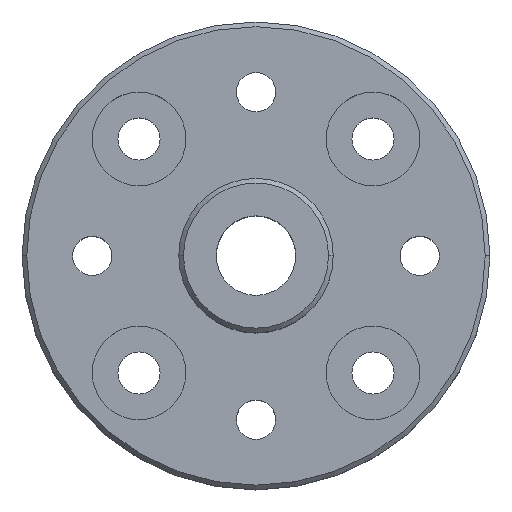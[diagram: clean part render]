
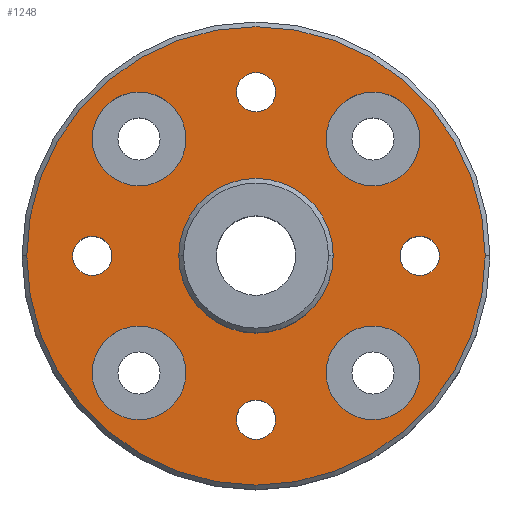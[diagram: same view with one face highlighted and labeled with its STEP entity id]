
A CAD part, top view. The second image highlights one B-rep face of the part: STEP entity #1248.
In plain terms, the highlighted planar face has unit normal (0, 0, 1).
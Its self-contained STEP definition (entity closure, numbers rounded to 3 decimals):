
#428=AXIS2_PLACEMENT_3D('Circle Axis2P3D',#426,#427,$) ;
#447=AXIS2_PLACEMENT_3D('Circle Axis2P3D',#445,#446,$) ;
#471=AXIS2_PLACEMENT_3D('Circle Axis2P3D',#469,#470,$) ;
#490=AXIS2_PLACEMENT_3D('Circle Axis2P3D',#488,#489,$) ;
#514=AXIS2_PLACEMENT_3D('Circle Axis2P3D',#512,#513,$) ;
#533=AXIS2_PLACEMENT_3D('Circle Axis2P3D',#531,#532,$) ;
#557=AXIS2_PLACEMENT_3D('Circle Axis2P3D',#555,#556,$) ;
#576=AXIS2_PLACEMENT_3D('Circle Axis2P3D',#574,#575,$) ;
#609=AXIS2_PLACEMENT_3D('Circle Axis2P3D',#607,#608,$) ;
#633=AXIS2_PLACEMENT_3D('Circle Axis2P3D',#631,#632,$) ;
#666=AXIS2_PLACEMENT_3D('Circle Axis2P3D',#664,#665,$) ;
#690=AXIS2_PLACEMENT_3D('Circle Axis2P3D',#688,#689,$) ;
#723=AXIS2_PLACEMENT_3D('Circle Axis2P3D',#721,#722,$) ;
#747=AXIS2_PLACEMENT_3D('Circle Axis2P3D',#745,#746,$) ;
#780=AXIS2_PLACEMENT_3D('Circle Axis2P3D',#778,#779,$) ;
#804=AXIS2_PLACEMENT_3D('Circle Axis2P3D',#802,#803,$) ;
#844=AXIS2_PLACEMENT_3D('Circle Axis2P3D',#842,#843,$) ;
#866=AXIS2_PLACEMENT_3D('Circle Axis2P3D',#864,#865,$) ;
#1174=AXIS2_PLACEMENT_3D('Circle Axis2P3D',#1172,#1173,$) ;
#1193=AXIS2_PLACEMENT_3D('Circle Axis2P3D',#1191,#1192,$) ;
#1206=AXIS2_PLACEMENT_3D('Plane Axis2P3D',#1203,#1204,#1205) ;
#423=CARTESIAN_POINT('Vertex',(-17.5,-12.5,10.)) ;
#426=CARTESIAN_POINT('Axis2P3D Location',(-12.5,-12.5,10.)) ;
#430=CARTESIAN_POINT('Vertex',(-7.5,-12.5,10.)) ;
#445=CARTESIAN_POINT('Axis2P3D Location',(-12.5,-12.5,10.)) ;
#466=CARTESIAN_POINT('Vertex',(7.5,-12.5,10.)) ;
#469=CARTESIAN_POINT('Axis2P3D Location',(12.5,-12.5,10.)) ;
#473=CARTESIAN_POINT('Vertex',(17.5,-12.5,10.)) ;
#488=CARTESIAN_POINT('Axis2P3D Location',(12.5,-12.5,10.)) ;
#509=CARTESIAN_POINT('Vertex',(7.5,12.5,10.)) ;
#512=CARTESIAN_POINT('Axis2P3D Location',(12.5,12.5,10.)) ;
#516=CARTESIAN_POINT('Vertex',(17.5,12.5,10.)) ;
#531=CARTESIAN_POINT('Axis2P3D Location',(12.5,12.5,10.)) ;
#552=CARTESIAN_POINT('Vertex',(-17.5,12.5,10.)) ;
#555=CARTESIAN_POINT('Axis2P3D Location',(-12.5,12.5,10.)) ;
#559=CARTESIAN_POINT('Vertex',(-7.5,12.5,10.)) ;
#574=CARTESIAN_POINT('Axis2P3D Location',(-12.5,12.5,10.)) ;
#604=CARTESIAN_POINT('Vertex',(-19.6,0.,10.)) ;
#607=CARTESIAN_POINT('Axis2P3D Location',(-17.5,0.,10.)) ;
#611=CARTESIAN_POINT('Vertex',(-15.4,0.,10.)) ;
#631=CARTESIAN_POINT('Axis2P3D Location',(-17.5,0.,10.)) ;
#661=CARTESIAN_POINT('Vertex',(15.4,0.,10.)) ;
#664=CARTESIAN_POINT('Axis2P3D Location',(17.5,0.,10.)) ;
#668=CARTESIAN_POINT('Vertex',(19.6,0.,10.)) ;
#688=CARTESIAN_POINT('Axis2P3D Location',(17.5,0.,10.)) ;
#718=CARTESIAN_POINT('Vertex',(-2.1,-17.5,10.)) ;
#721=CARTESIAN_POINT('Axis2P3D Location',(0.,-17.5,10.)) ;
#725=CARTESIAN_POINT('Vertex',(2.1,-17.5,10.)) ;
#745=CARTESIAN_POINT('Axis2P3D Location',(0.,-17.5,10.)) ;
#775=CARTESIAN_POINT('Vertex',(-2.1,17.5,10.)) ;
#778=CARTESIAN_POINT('Axis2P3D Location',(0.,17.5,10.)) ;
#782=CARTESIAN_POINT('Vertex',(2.1,17.5,10.)) ;
#802=CARTESIAN_POINT('Axis2P3D Location',(0.,17.5,10.)) ;
#823=CARTESIAN_POINT('Vertex',(-24.5,0.,10.)) ;
#839=CARTESIAN_POINT('Vertex',(24.5,0.,10.)) ;
#842=CARTESIAN_POINT('Axis2P3D Location',(0.,0.,10.)) ;
#864=CARTESIAN_POINT('Axis2P3D Location',(0.,0.,10.)) ;
#1169=CARTESIAN_POINT('Vertex',(-8.,0.,10.)) ;
#1172=CARTESIAN_POINT('Axis2P3D Location',(0.,0.,10.)) ;
#1176=CARTESIAN_POINT('Vertex',(8.,0.,10.)) ;
#1191=CARTESIAN_POINT('Axis2P3D Location',(0.,0.,10.)) ;
#1203=CARTESIAN_POINT('Axis2P3D Location',(0.,0.,10.)) ;
#427=DIRECTION('Axis2P3D Direction',(0.,0.,1.)) ;
#446=DIRECTION('Axis2P3D Direction',(0.,0.,1.)) ;
#470=DIRECTION('Axis2P3D Direction',(0.,0.,1.)) ;
#489=DIRECTION('Axis2P3D Direction',(0.,0.,1.)) ;
#513=DIRECTION('Axis2P3D Direction',(0.,0.,1.)) ;
#532=DIRECTION('Axis2P3D Direction',(0.,0.,1.)) ;
#556=DIRECTION('Axis2P3D Direction',(0.,0.,1.)) ;
#575=DIRECTION('Axis2P3D Direction',(0.,0.,1.)) ;
#608=DIRECTION('Axis2P3D Direction',(0.,0.,1.)) ;
#632=DIRECTION('Axis2P3D Direction',(0.,0.,1.)) ;
#665=DIRECTION('Axis2P3D Direction',(0.,0.,1.)) ;
#689=DIRECTION('Axis2P3D Direction',(0.,0.,1.)) ;
#722=DIRECTION('Axis2P3D Direction',(0.,0.,1.)) ;
#746=DIRECTION('Axis2P3D Direction',(0.,0.,1.)) ;
#779=DIRECTION('Axis2P3D Direction',(0.,0.,1.)) ;
#803=DIRECTION('Axis2P3D Direction',(0.,0.,1.)) ;
#843=DIRECTION('Axis2P3D Direction',(0.,0.,1.)) ;
#865=DIRECTION('Axis2P3D Direction',(0.,0.,1.)) ;
#1173=DIRECTION('Axis2P3D Direction',(0.,0.,1.)) ;
#1192=DIRECTION('Axis2P3D Direction',(0.,0.,1.)) ;
#1204=DIRECTION('Axis2P3D Direction',(0.,0.,1.)) ;
#1205=DIRECTION('Axis2P3D XDirection',(1.,0.,0.)) ;
#1209=ORIENTED_EDGE('',*,*,#846,.T.) ;
#1210=ORIENTED_EDGE('',*,*,#868,.T.) ;
#1213=ORIENTED_EDGE('',*,*,#432,.F.) ;
#1214=ORIENTED_EDGE('',*,*,#449,.F.) ;
#1217=ORIENTED_EDGE('',*,*,#475,.F.) ;
#1218=ORIENTED_EDGE('',*,*,#492,.F.) ;
#1221=ORIENTED_EDGE('',*,*,#518,.F.) ;
#1222=ORIENTED_EDGE('',*,*,#535,.F.) ;
#1225=ORIENTED_EDGE('',*,*,#561,.F.) ;
#1226=ORIENTED_EDGE('',*,*,#578,.F.) ;
#1229=ORIENTED_EDGE('',*,*,#613,.F.) ;
#1230=ORIENTED_EDGE('',*,*,#635,.F.) ;
#1233=ORIENTED_EDGE('',*,*,#670,.F.) ;
#1234=ORIENTED_EDGE('',*,*,#692,.F.) ;
#1237=ORIENTED_EDGE('',*,*,#727,.F.) ;
#1238=ORIENTED_EDGE('',*,*,#749,.F.) ;
#1241=ORIENTED_EDGE('',*,*,#784,.F.) ;
#1242=ORIENTED_EDGE('',*,*,#806,.F.) ;
#1245=ORIENTED_EDGE('',*,*,#1178,.F.) ;
#1246=ORIENTED_EDGE('',*,*,#1195,.F.) ;
#1215=FACE_BOUND('',#1212,.T.) ;
#1219=FACE_BOUND('',#1216,.T.) ;
#1223=FACE_BOUND('',#1220,.T.) ;
#1227=FACE_BOUND('',#1224,.T.) ;
#1231=FACE_BOUND('',#1228,.T.) ;
#1235=FACE_BOUND('',#1232,.T.) ;
#1239=FACE_BOUND('',#1236,.T.) ;
#1243=FACE_BOUND('',#1240,.T.) ;
#1247=FACE_BOUND('',#1244,.T.) ;
#1248=ADVANCED_FACE('\X2\96F64EF651E04F554F53\X0\',(#1211,#1215,#1219,#1223,#1227,#1231,#1235,#1239,#1243,#1247),#1207,.T.) ;
#429=CIRCLE('generated circle',#428,5.) ;
#448=CIRCLE('generated circle',#447,5.) ;
#472=CIRCLE('generated circle',#471,5.) ;
#491=CIRCLE('generated circle',#490,5.) ;
#515=CIRCLE('generated circle',#514,5.) ;
#534=CIRCLE('generated circle',#533,5.) ;
#558=CIRCLE('generated circle',#557,5.) ;
#577=CIRCLE('generated circle',#576,5.) ;
#610=CIRCLE('generated circle',#609,2.1) ;
#634=CIRCLE('generated circle',#633,2.1) ;
#667=CIRCLE('generated circle',#666,2.1) ;
#691=CIRCLE('generated circle',#690,2.1) ;
#724=CIRCLE('generated circle',#723,2.1) ;
#748=CIRCLE('generated circle',#747,2.1) ;
#781=CIRCLE('generated circle',#780,2.1) ;
#805=CIRCLE('generated circle',#804,2.1) ;
#845=CIRCLE('generated circle',#844,24.5) ;
#867=CIRCLE('generated circle',#866,24.5) ;
#1175=CIRCLE('generated circle',#1174,8.) ;
#1194=CIRCLE('generated circle',#1193,8.) ;
#432=EDGE_CURVE('',#424,#431,#429,.T.) ;
#449=EDGE_CURVE('',#431,#424,#448,.T.) ;
#475=EDGE_CURVE('',#467,#474,#472,.T.) ;
#492=EDGE_CURVE('',#474,#467,#491,.T.) ;
#518=EDGE_CURVE('',#510,#517,#515,.T.) ;
#535=EDGE_CURVE('',#517,#510,#534,.T.) ;
#561=EDGE_CURVE('',#553,#560,#558,.T.) ;
#578=EDGE_CURVE('',#560,#553,#577,.T.) ;
#613=EDGE_CURVE('',#605,#612,#610,.T.) ;
#635=EDGE_CURVE('',#612,#605,#634,.T.) ;
#670=EDGE_CURVE('',#662,#669,#667,.T.) ;
#692=EDGE_CURVE('',#669,#662,#691,.T.) ;
#727=EDGE_CURVE('',#719,#726,#724,.T.) ;
#749=EDGE_CURVE('',#726,#719,#748,.T.) ;
#784=EDGE_CURVE('',#776,#783,#781,.T.) ;
#806=EDGE_CURVE('',#783,#776,#805,.T.) ;
#846=EDGE_CURVE('',#824,#840,#845,.T.) ;
#868=EDGE_CURVE('',#840,#824,#867,.T.) ;
#1178=EDGE_CURVE('',#1170,#1177,#1175,.T.) ;
#1195=EDGE_CURVE('',#1177,#1170,#1194,.T.) ;
#1208=EDGE_LOOP('',(#1209,#1210)) ;
#1212=EDGE_LOOP('',(#1213,#1214)) ;
#1216=EDGE_LOOP('',(#1217,#1218)) ;
#1220=EDGE_LOOP('',(#1221,#1222)) ;
#1224=EDGE_LOOP('',(#1225,#1226)) ;
#1228=EDGE_LOOP('',(#1229,#1230)) ;
#1232=EDGE_LOOP('',(#1233,#1234)) ;
#1236=EDGE_LOOP('',(#1237,#1238)) ;
#1240=EDGE_LOOP('',(#1241,#1242)) ;
#1244=EDGE_LOOP('',(#1245,#1246)) ;
#1211=FACE_OUTER_BOUND('',#1208,.T.) ;
#1207=PLANE('',#1206) ;
#424=VERTEX_POINT('',#423) ;
#431=VERTEX_POINT('',#430) ;
#467=VERTEX_POINT('',#466) ;
#474=VERTEX_POINT('',#473) ;
#510=VERTEX_POINT('',#509) ;
#517=VERTEX_POINT('',#516) ;
#553=VERTEX_POINT('',#552) ;
#560=VERTEX_POINT('',#559) ;
#605=VERTEX_POINT('',#604) ;
#612=VERTEX_POINT('',#611) ;
#662=VERTEX_POINT('',#661) ;
#669=VERTEX_POINT('',#668) ;
#719=VERTEX_POINT('',#718) ;
#726=VERTEX_POINT('',#725) ;
#776=VERTEX_POINT('',#775) ;
#783=VERTEX_POINT('',#782) ;
#824=VERTEX_POINT('',#823) ;
#840=VERTEX_POINT('',#839) ;
#1170=VERTEX_POINT('',#1169) ;
#1177=VERTEX_POINT('',#1176) ;
